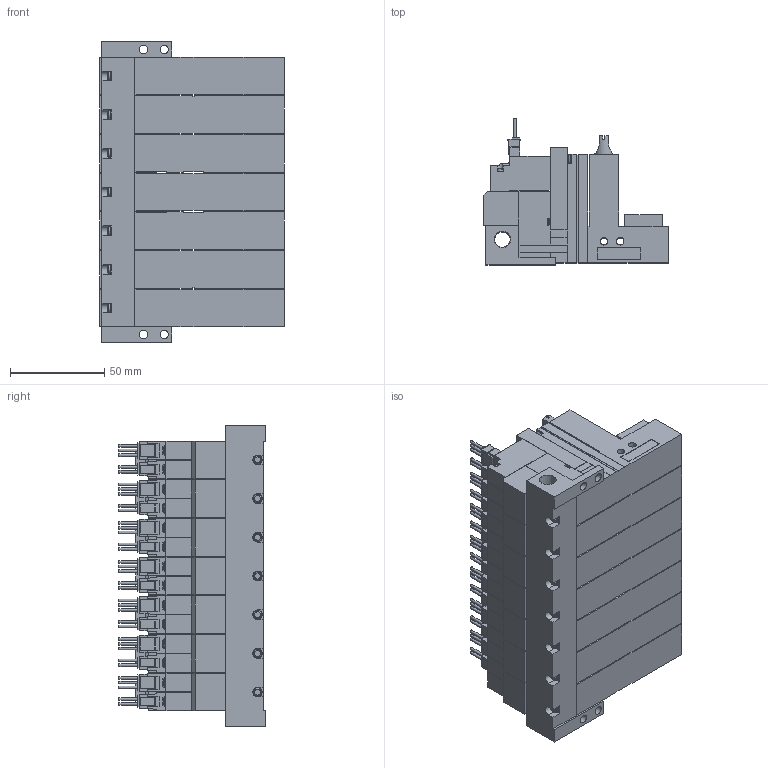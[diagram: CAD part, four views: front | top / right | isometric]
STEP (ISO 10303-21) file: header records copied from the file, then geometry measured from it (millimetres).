
FILE_DESCRIPTION(('STEP AP203'),'1');
FILE_NAME('ZLC5WLR707.stp','2025-02-25T02:11:13',(' '),(' '),'Spatial InterOp 3D',' ',' ');
FILE_SCHEMA(('CONFIG_CONTROL_DESIGN'));
Length unit declared in the file: millimetre
Products named in the file (5): BMC22M※※※※ZLC5WLR707; Solenoid valve W; Pressure sensor ZLC; Unit LC; Base MR70R
Assembly tree (22 placements, depth 2):
  BMC22M※※※※ZLC5WLR707
    Solenoid valve W  x7
    Pressure sensor ZLC  x7
    Unit LC  x7
    Base MR70R
Bounding box: 97.6 x 77.45 x 159 mm (x, y, z)
Volume: 629426.7 mm3; surface area: 167236.6 mm2
Topology: 22 solids, 22 shells, 2562 faces, 6954 edges, 4569 vertices
Faces by surface type: plane 2212, cylinder 264, cone 51, torus 35
Full cylindrical faces by diameter (mm): 1.4 x35, 2.5 x7, 3 x28, 3.5 x28, 3.6 x7, 4 x14, 4.134 x7, 4.5 x4, 5.2 x7, 6 x7, 6.6 x7, 8.279 x1
Entity records: 14950 total; most frequent: CARTESIAN_POINT 2926, DIRECTION 2373, ORIENTED_EDGE 2302, EDGE_CURVE 1151, LINE 921, VECTOR 921, VERTEX_POINT 808, AXIS2_PLACEMENT_3D 726
